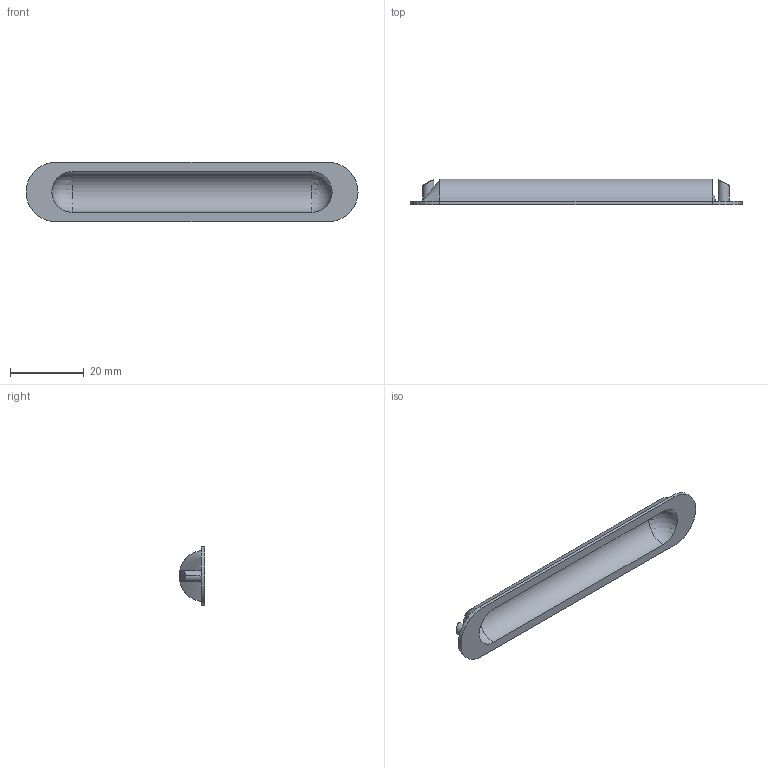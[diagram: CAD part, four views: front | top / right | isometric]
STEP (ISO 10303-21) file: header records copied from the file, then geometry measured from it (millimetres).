
FILE_DESCRIPTION( ( '' ), '1' );
FILE_NAME( 'C:/Documents and Settings/Sachin/Desktop/Sheet 10_1/stp/9145283.stp', '2013-10-22T06:10:28', ( '' ), ( '' ), ' ', ' ', ' ' );
FILE_SCHEMA( ( 'CONFIG_CONTROL_DESIGN' ) );
Length unit declared in the file: millimetre
Products named in the file (1): 1
Bounding box: 90 x 7 x 16 mm (x, y, z)
Surface area: 4889.6 mm2
Topology: 1 solids, 2 shells, 24 faces, 54 edges, 32 vertices
Faces by surface type: plane 10, cylinder 9, torus 3, sphere 2
Entity records: 899 total; most frequent: CARTESIAN_POINT 349, DIRECTION 109, ORIENTED_EDGE 98, EDGE_CURVE 49, AXIS2_PLACEMENT_3D 44, VERTEX_POINT 32, EDGE_LOOP 27, FACE_OUTER_BOUND 25
